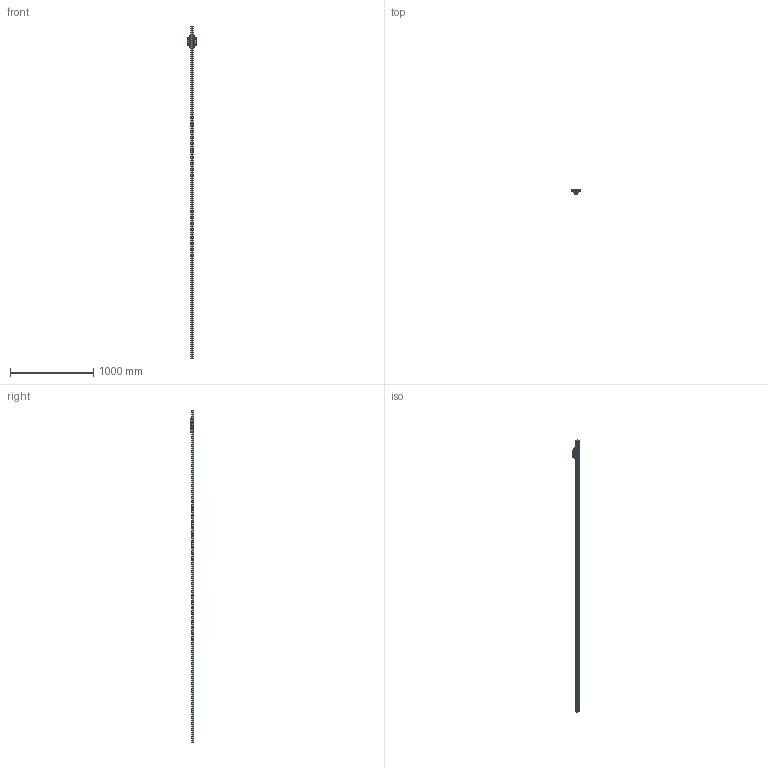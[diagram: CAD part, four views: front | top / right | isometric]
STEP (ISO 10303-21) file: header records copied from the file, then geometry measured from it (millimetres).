
FILE_DESCRIPTION((''),'2;1');
FILE_NAME('BRS35-LA_CUSTOMER_ASM_ASM','2020-11-24T11:46:03',('TWVS2025'),(''),'CREO PARAMETRIC BY PTC INC, 2018420','CREO PARAMETRIC BY PTC INC, 2018420','');
FILE_SCHEMA(('CONFIG_CONTROL_DESIGN'));
Products named in the file (77): BC-BRC35-LA_ASM_1_1; BC-BRC35-LA_ASM_1_2; BC-BRC35-LA_ASM_1_3; BC-BRC35-LA_ASM_1_4; BC-BRC35-LA_ASM_1_5; BC-BRC35-LA_ASM_1_6; BC-BRC35-LA_ASM_1_7; BC-BRC35-LA_ASM_1_8; BC-BRC35-LA_ASM_1_9; BC-BRC35-LA_ASM_1_10; BC-BRC35-LA_ASM_1_11; BC-BRC35-LA_ASM_1_12; BC-BRC35-LA_ASM_1_13; BC-BRC35-LA_ASM_1_14; BC-BRC35-LA_ASM_1_15; BC-BRC35-LA_ASM_1_16; BC-BRC35-LA_ASM_1_17; BC-BRC35-LA_ASM_1_18; BC-BRC35-LA_ASM_1_19; BC-BRC35-LA_ASM_1_20; BC-BRC35-LA_ASM_1_21; BC-BRC35-LA_ASM_1_22; BC-BRC35-LA_ASM_1_23; BC-BRC35-LA_ASM_1_24; BC-BRC35-LA_ASM_1_25; BC-BRC35-LA_ASM_1_26; BC-BRC35-LA_ASM_1_27; BC-BRC35-LA_ASM_1_28; BC-BRC35-LA_ASM_1_29; BC-BRC35-LA_ASM_1_30; BC-BRC35-LA_ASM_1_31; BC-BRC35-LA_ASM_1_32; BC-BRC35-LA_ASM_1_33; BC-BRC35-LA_ASM_1_34; BC-BRC35-LA_ASM_1_35; BC-BRC35-LA_ASM_1_36; BC-BRC35-LA_ASM_1_37; BC-BRC35-LA_ASM_1_38; BC-BRC35-LA_ASM_1_39; BC-BRC35-LA_ASM_1_40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
Assembly tree (76 placements, depth 4):
  BRS35-LA_CUSTOMER_ASM_ASM
    BRS35-LA_CUSTOMER_ASM_1_ASM
      BC-BRC35-LA_ASM_1_ASM
        BC-BRC35-LA_ASM_1_1
        BC-BRC35-LA_ASM_1_2
        BC-BRC35-LA_ASM_1_3
        BC-BRC35-LA_ASM_1_4
        BC-BRC35-LA_ASM_1_5
        BC-BRC35-LA_ASM_1_6
        BC-BRC35-LA_ASM_1_7
        BC-BRC35-LA_ASM_1_8
        BC-BRC35-LA_ASM_1_9
        BC-BRC35-LA_ASM_1_10
        BC-BRC35-LA_ASM_1_11
        BC-BRC35-LA_ASM_1_12
        BC-BRC35-LA_ASM_1_13
        BC-BRC35-LA_ASM_1_14
        BC-BRC35-LA_ASM_1_15
        BC-BRC35-LA_ASM_1_16
        BC-BRC35-LA_ASM_1_17
        BC-BRC35-LA_ASM_1_18
        BC-BRC35-LA_ASM_1_19
        BC-BRC35-LA_ASM_1_20
        BC-BRC35-LA_ASM_1_21
        BC-BRC35-LA_ASM_1_22
        BC-BRC35-LA_ASM_1_23
        BC-BRC35-LA_ASM_1_24
        BC-BRC35-LA_ASM_1_25
        BC-BRC35-LA_ASM_1_26
        BC-BRC35-LA_ASM_1_27
        BC-BRC35-LA_ASM_1_28
        BC-BRC35-LA_ASM_1_29
        BC-BRC35-LA_ASM_1_30
        BC-BRC35-LA_ASM_1_31
        BC-BRC35-LA_ASM_1_32
        BC-BRC35-LA_ASM_1_33
        BC-BRC35-LA_ASM_1_34
        BC-BRC35-LA_ASM_1_35
        BC-BRC35-LA_ASM_1_36
        BC-BRC35-LA_ASM_1_37
        BC-BRC35-LA_ASM_1_38
        BC-BRC35-LA_ASM_1_39
        BC-BRC35-LA_ASM_1_40
        BC-BRC35-LA_ASM_1_41
        BC-BRC35-LA_ASM_1_42
        BC-BRC35-LA_ASM_1_43
        BC-BRC35-LA_ASM_1_44
        BC-BRC35-LA_ASM_1_45
        BC-BRC35-LA_ASM_1_46
        BC-BRC35-LA_ASM_1_47
        BC-BRC35-LA_ASM_1_48
        BC-BRC35-LA_ASM_1_49
        BC-BRC35-LA_ASM_1_50
        BC-BRC35-LA_ASM_1_51
        BC-BRC35-LA_ASM_1_52
        BC-BRC35-LA_ASM_1_53
        BC-BRC35-LA_ASM_1_54
        BC-BRC35-LA_ASM_1_55
        BC-BRC35-LA_ASM_1_56
        BC-BRC35-LA_ASM_1_57
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Bounding box: 99.95 x 48 x 4000 mm (x, y, z)
Volume: 3666456.2 mm3; surface area: 662921.9 mm2
Topology: 75 solids, 90 shells, 1883 faces, 5582 edges, 3621 vertices
Faces by surface type: plane 791, cylinder 664, sphere 237, bspline 106, cone 49, torus 36
Entity records: 82048 total; most frequent: CARTESIAN_POINT 31494, ORIENTED_EDGE 10504, DIRECTION 10237, EDGE_CURVE 5252, AXIS2_PLACEMENT_3D 3888, VERTEX_POINT 3621, VECTOR 2461, LINE 2461
